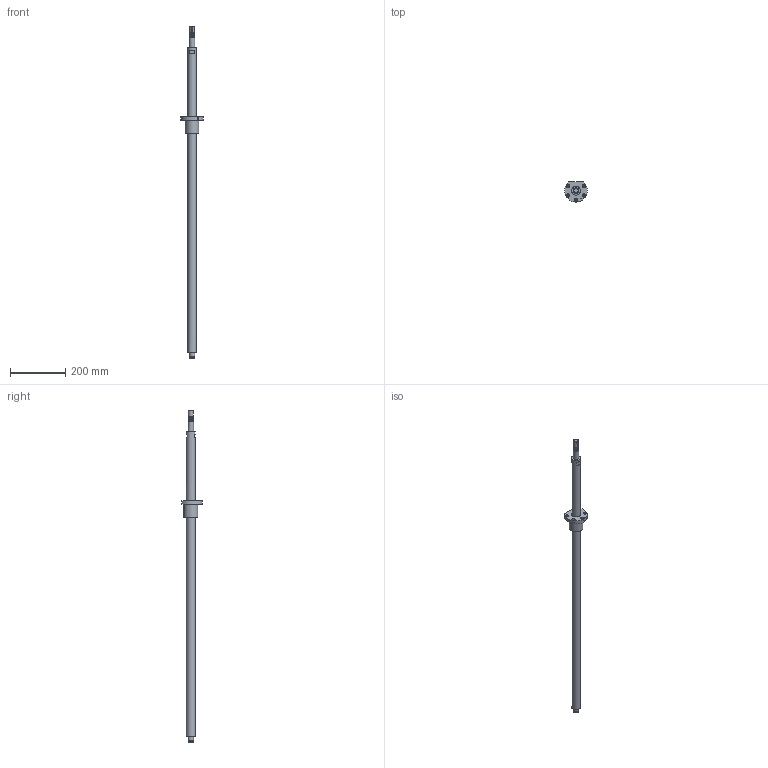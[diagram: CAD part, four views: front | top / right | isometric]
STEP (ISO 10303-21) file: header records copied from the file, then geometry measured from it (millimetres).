
FILE_DESCRIPTION(/* description */ (''),/* implementation_level */ '2;1');
FILE_NAME(/* name */ 'BSG403_asm1.stp',/* time_stamp */ '2017-01-12T14:09:22+08:00',/* author */ (''),/* organization */ (''),/* preprocessor_version */ 'ST-DEVELOPER v15',/* originating_system */ 'SIEMENS PLM Software NX 8.5',/* authorisation */ '');
FILE_SCHEMA (('AUTOMOTIVE_DESIGN { 1 0 10303 214 3 1 1 1 }'));
Length unit declared in the file: millimetre
Products named in the file (3): 01; BSG403; BSG403_asm1
Assembly tree (2 placements, depth 2):
  BSG403_asm1
    BSG403
    01
Bounding box: 81.92 x 72.85 x 1200 mm (x, y, z)
Volume: 1016538.6 mm3; surface area: 146095.6 mm2
Topology: 2 solids, 2 shells, 61 faces, 131 edges, 88 vertices
Faces by surface type: cylinder 29, plane 28, bspline 2, cone 2
Full cylindrical faces by diameter (mm): 5 x1, 6 x1, 7 x5, 12 x5, 17 x1, 19 x1, 20 x8, 32 x2, 50 x1
Entity records: 2959 total; most frequent: CARTESIAN_POINT 1791, DIRECTION 234, ORIENTED_EDGE 174, AXIS2_PLACEMENT_3D 105, EDGE_LOOP 104, EDGE_CURVE 87, FACE_BOUND 85, VERTEX_POINT 71
